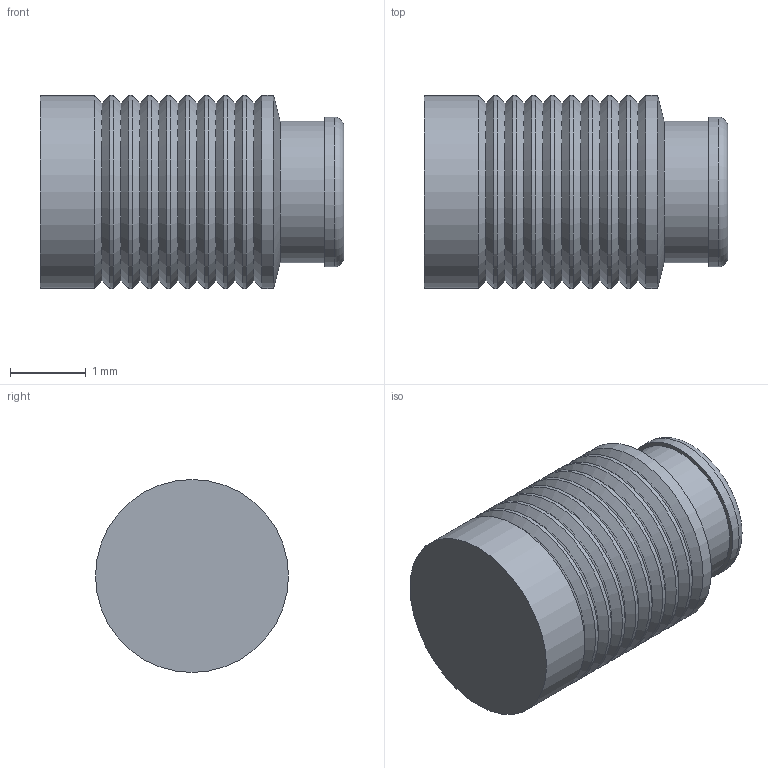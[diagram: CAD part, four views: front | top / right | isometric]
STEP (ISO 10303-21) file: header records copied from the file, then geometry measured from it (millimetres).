
FILE_DESCRIPTION(/* description */ ('LEE ORIFICE, 2.5mm, FORWARD, INSERT, LIQUID, SCREENED'),/* implementation_level */ '2;1');
FILE_NAME(/* name */ '\\absolute\smwork\Vernon\RILF2553XXXS.stp',/* time_stamp */ '2022-07-01T09:49:19-04:00',/* author */ ('VernonJ'),/* organization */ (''),/* preprocessor_version */ 'ST-DEVELOPER v18.1',/* originating_system */ 'Autodesk Inventor 2020',/* authorisation */ '');
FILE_SCHEMA (('AUTOMOTIVE_DESIGN { 1 0 10303 214 3 1 1 }'));
Length unit declared in the file: millimetre
Products named in the file (1): RILF2553XXXS
Bounding box: 4 x 2.54 x 2.54 mm (x, y, z)
Volume: 17.5 mm3; surface area: 45.2 mm2
Topology: 1 solids, 1 shells, 35 faces, 101 edges, 69 vertices
Faces by surface type: cone 19, cylinder 12, plane 3, torus 1
Full cylindrical faces by diameter (mm): 1.86 x1, 1.97 x1, 2.54 x10
Entity records: 1246 total; most frequent: DIRECTION 243, CARTESIAN_POINT 206, ORIENTED_EDGE 202, AXIS2_PLACEMENT_3D 106, EDGE_CURVE 101, CIRCLE 70, VERTEX_POINT 69, EDGE_LOOP 36
